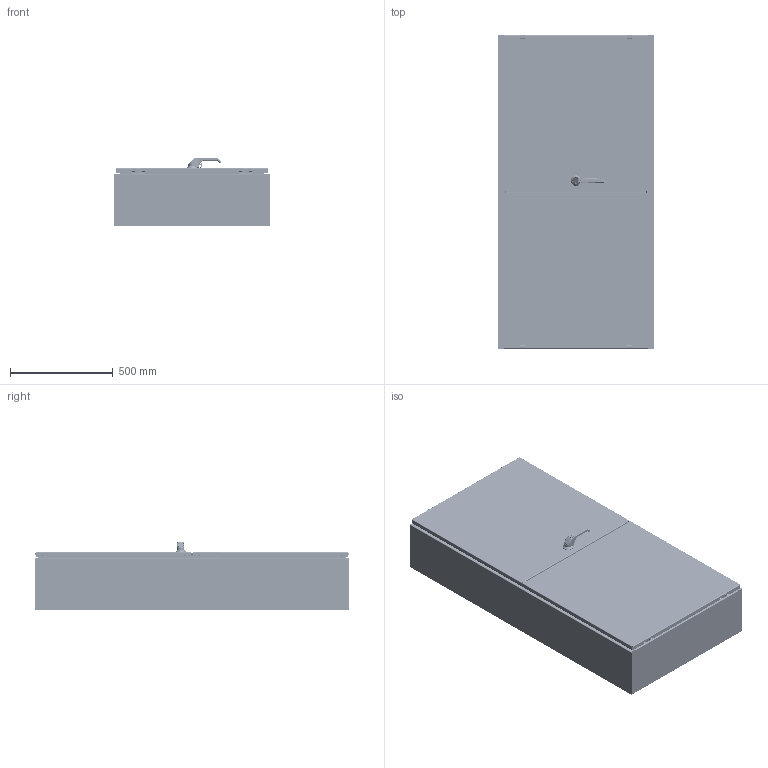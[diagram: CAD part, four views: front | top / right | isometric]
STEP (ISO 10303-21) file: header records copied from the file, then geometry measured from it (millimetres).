
FILE_DESCRIPTION((''),'2;1');
FILE_NAME('MODEL-321_ASM','2026-08-19T15:09:20',('richards'),('SAGINAW CONTROL & ENGINEERING'),'CREO PARAMETRIC BY PTC INC, 2021284','CREO PARAMETRIC BY PTC INC, 2021284','');
FILE_SCHEMA(('AUTOMOTIVE_DESIGN { 1 0 10303 214 1 1 1 1 }'));
Length unit declared in the file: inch
Products named in the file (62): MODEL-321-BDY; MODEL-321-RS; MODEL-321-LS; MODEL-321-MSTR; 100837; 100882; 111267; MODEL-321-ROD-UPR; 128146; 128145; 128144; 102482; MODEL-321-ROD-UPR_ASM; 128143; 112504; MODEL-321-ROD-LWR; MODEL-321-ROD-LWR_ASM; 100955_SCREW_MTG; 100955_PADLOCK_CATCH; 100955_SCREW_LARGE; 100955_INSERT_SHAFT; 100955_INSERT_PKH; 100955_GASKET; 100955_O-RING; 100955_BASE; 100955_SPRING; 100955_HANDLE; 100955_CAM_SHAFT; 100955_HANDLE_ASM; 100955_CAM_ADAPTER; 100955_EARTH_NUT; 100955_FLANGE_NUT; 100955_CAM_NUT; 100955_KEY_INSERT; 100955_SPRING_CAM; 100955_TORSION_SPRING; 100955_SCREW_INSERT; 100955_ASM; 128142; 100030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
Assembly tree (120 placements, depth 5):
  MODEL-321_ASM
    MODEL-321-BDY
    MODEL-321-RS
    MODEL-321-LS
    MODEL-321-MASTER-DR-ASSY_ASM
      MODEL-321-MSTR
      100837  x5
      100882  x4
      111267
      MODEL-321-ROD-UPR_ASM
        MODEL-321-ROD-UPR
        128146
        128145
        128144
        102482  x2
      128143  x2
      112504  x2
      MODEL-321-ROD-LWR_ASM
        MODEL-321-ROD-LWR
        128146
        128145
        128144
        102482  x2
      100955_ASM
        100955_SCREW_MTG
        100955_PADLOCK_CATCH
        100955_SCREW_LARGE  x2
        100955_INSERT_SHAFT
        100955_INSERT_PKH
        100955_GASKET
        100955_O-RING
        100955_BASE
        100955_SPRING
        100955_HANDLE_ASM
          100955_HANDLE
          100955_CAM_SHAFT
        100955_CAM_ADAPTER
        100955_EARTH_NUT
        100955_FLANGE_NUT
        100955_CAM_NUT
        100955_KEY_INSERT
        100955_SPRING_CAM
        100955_TORSION_SPRING
        100955_SCREW_INSERT
      128142_ASM
        128142
        100030  x2
      MODEL-321-PR-GSKT-M
      126391_ASM  x2
        126391
      126393  x2
      101226  x2
      101376  x2
      102483  x6
      102140  x2
      132757  x2
      125597
    MODEL-321-SLAVE-DR-ASSY_ASM
      MODEL-321-SLV
      100837
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Bounding box: 762 x 1524 x 332.5 mm (x, y, z)
Volume: 11894052.1 mm3; surface area: 10554067.2 mm2
Topology: 118 solids, 118 shells, 9695 faces, 24368 edges, 14909 vertices
Faces by surface type: plane 3484, cylinder 2597, bspline 1724, torus 875, cone 679, sphere 306, extrusion 30
Entity records: 347830 total; most frequent: CARTESIAN_POINT 143791, ORIENTED_EDGE 31958, DIRECTION 28652, PRESENTATION_STYLE_ASSIGNMENT 16043, STYLED_ITEM 16036, CURVE_STYLE 15979, EDGE_CURVE 15979, AXIS2_PLACEMENT_3D 10599
